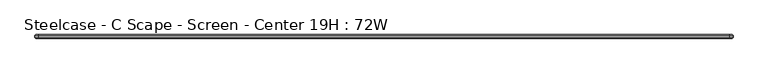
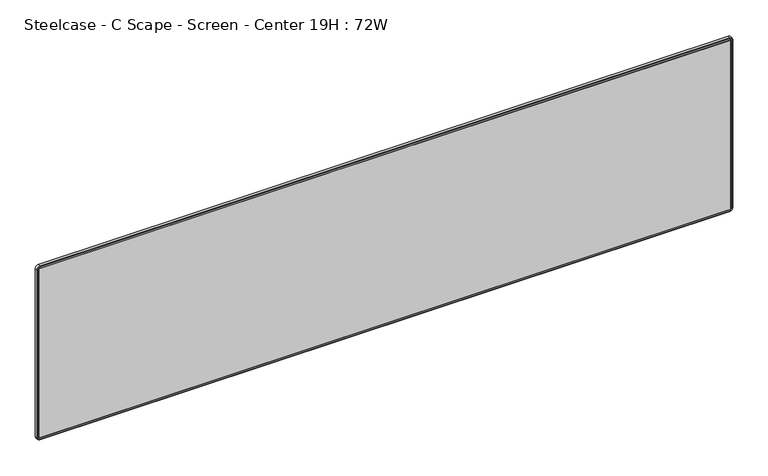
"""IFC4 building model written with IfcOpenShell, lengths in millimetres: furniture geometry, Steelcase - C Scape - Screen - Center 19H : 72W."""

from ifc_helpers import new_model, si_unit, frame, origin, place, context, project, spatial, polyline, circle_curve, outline, extrude, source, transform, mapped, element, save
from ifc_brep_helpers import plane_surface, cylinder_surface, revolved_surface, advanced_brep


def steelcase_c_scape_screen_center_19h_72w_294c186f(model_context):
    return source(origin(), model_context, "Body", "SolidModel", [
        advanced_brep(
        [(6.3501994, -7.9375, 1153.0695677), (8.21859, -7.9375, 1154.9379583), (8.21859, -17.4625, 1154.9379583), (6.3501994, -17.4625, 1153.0695677), (0.0002237, -9.6896209, 1153.0695677), (8.21859, -9.6896209, 1161.2879341), (8.21859, -7.9375, 1159.5358132), (1.7523445, -7.9375, 1153.0695677), (0.0002237, -15.7098203, 1153.0695677), (8.21859, -15.7098203, 1161.2879341), (1.7529034, -17.4625, 1153.0695677), (8.21859, -17.4625, 1159.5352544), (6.3501994, -17.4625, 686.9063005), (6.3501994, -7.9375, 686.9063005), (1.7523445, -7.9375, 686.9063005), (0.0002237, -9.6896209, 686.9063005), (0.0002237, -15.7098203, 686.9063005), (1.7529034, -17.4625, 686.9063005), (8.21859, -7.9375, 685.0379099), (8.21859, -17.4625, 685.0379099), (8.21859, -9.6896209, 678.6879341), (8.21859, -7.9375, 680.440055), (8.21859, -15.7098203, 678.6879341), (8.21859, -17.4625, 680.4406139), (1817.406615, -17.4625, 685.0379099), (1817.406615, -7.9375, 685.0379099), (1817.406615, -7.9375, 680.440055), (1817.406615, -9.6896209, 678.6879341), (1817.406615, -15.7098203, 678.6879341), (1817.406615, -17.4625, 680.4406139), (1819.2750056, -7.9375, 686.9063005), (1819.2750056, -17.4625, 686.9063005), (1825.6249814, -9.6896209, 686.9063005), (1823.8728605, -7.9375, 686.9063005), (1825.6249814, -15.7098203, 686.9063005), (1823.8723017, -17.4625, 686.9063005), (1819.2750056, -17.4625, 1153.0695677), (1819.2750056, -7.9375, 1153.0695677), (1823.8728605, -7.9375, 1153.0695677), (1825.6249814, -9.6896209, 1153.0695677), (1825.6249814, -15.7098203, 1153.0695677), (1823.8723017, -17.4625, 1153.0695677), (1817.406615, -7.9375, 1154.9379583), (1817.406615, -17.4625, 1154.9379583), (1817.406615, -7.9375, 1159.5358132), (1817.406615, -9.6896209, 1161.2879341), (1817.406615, -15.7098203, 1161.2879341), (1817.406615, -17.4625, 1159.5352544)],
        [
            (0, 1, circle_curve(frame((8.21859, -7.9375, 1153.0695677), z_axis=(0.0, 1.0, 0.0), x_axis=(0.0, 0.0, 1.0)), 1.8683906)),
            (1, 2),
            (2, 3, circle_curve(frame((8.21859, -17.4625, 1153.0695677), z_axis=(0.0, -1.0, 0.0), x_axis=(0.0, 0.0, 1.0)), 1.8683906)),
            (3, 0),
            (4, 5, circle_curve(frame((8.21859, -9.6896209, 1153.0695677), z_axis=(0.0, 1.0, 0.0), x_axis=(0.0, 0.0, 1.0)), 8.2183664)),
            (5, 6),
            (6, 7, circle_curve(frame((8.21859, -7.9375, 1153.0695677), z_axis=(0.0, -1.0, 0.0), x_axis=(0.0, 0.0, 1.0)), 6.4662455)),
            (7, 4),
            (8, 9, circle_curve(frame((8.21859, -15.7098203, 1153.0695677), z_axis=(0.0, 1.0, 0.0), x_axis=(0.0, 0.0, 1.0)), 8.2183664)),
            (9, 5),
            (4, 8),
            (10, 11, circle_curve(frame((8.21859, -17.4625, 1153.0695677), z_axis=(0.0, 1.0, 0.0), x_axis=(0.0, 0.0, 1.0)), 6.4656866)),
            (11, 9),
            (8, 10),
            (3, 12),
            (12, 13),
            (13, 0),
            (7, 14),
            (14, 15),
            (15, 4),
            (15, 16),
            (16, 8),
            (16, 17),
            (17, 10),
            (18, 13, circle_curve(frame((8.21859, -7.9375, 686.9063005), z_axis=(0.0, 1.0, 0.0), x_axis=(-1.0, 0.0, 0.0)), 1.8683906)),
            (12, 19, circle_curve(frame((8.21859, -17.4625, 686.9063005), z_axis=(0.0, -1.0, 0.0), x_axis=(-1.0, 0.0, 0.0)), 1.8683906)),
            (19, 18),
            (20, 15, circle_curve(frame((8.21859, -9.6896209, 686.9063005), z_axis=(0.0, 1.0, 0.0), x_axis=(-1.0, 0.0, 0.0)), 8.2183664)),
            (14, 21, circle_curve(frame((8.21859, -7.9375, 686.9063005), z_axis=(0.0, -1.0, 0.0), x_axis=(-1.0, 0.0, 0.0)), 6.4662455)),
            (21, 20),
            (22, 16, circle_curve(frame((8.21859, -15.7098203, 686.9063005), z_axis=(0.0, 1.0, 0.0), x_axis=(-1.0, 0.0, 0.0)), 8.2183664)),
            (20, 22),
            (23, 17, circle_curve(frame((8.21859, -17.4625, 686.9063005), z_axis=(0.0, 1.0, 0.0), x_axis=(-1.0, 0.0, 0.0)), 6.4656866)),
            (22, 23),
            (19, 24),
            (24, 25),
            (25, 18),
            (21, 26),
            (26, 27),
            (27, 20),
            (27, 28),
            (28, 22),
            (28, 29),
            (29, 23),
            (30, 25, circle_curve(frame((1817.406615, -7.9375, 686.9063005), z_axis=(0.0, 1.0, 0.0), x_axis=(0.0, 0.0, -1.0)), 1.8683906)),
            (24, 31, circle_curve(frame((1817.406615, -17.4625, 686.9063005), z_axis=(0.0, -1.0, 0.0), x_axis=(0.0, 0.0, -1.0)), 1.8683906)),
            (31, 30),
            (32, 27, circle_curve(frame((1817.406615, -9.6896209, 686.9063005), z_axis=(0.0, 1.0, 0.0), x_axis=(0.0, 0.0, -1.0)), 8.2183664)),
            (26, 33, circle_curve(frame((1817.406615, -7.9375, 686.9063005), z_axis=(0.0, -1.0, 0.0), x_axis=(0.0, 0.0, -1.0)), 6.4662455)),
            (33, 32),
            (34, 28, circle_curve(frame((1817.406615, -15.7098203, 686.9063005), z_axis=(0.0, 1.0, 0.0), x_axis=(0.0, 0.0, -1.0)), 8.2183664)),
            (32, 34),
            (35, 29, circle_curve(frame((1817.406615, -17.4625, 686.9063005), z_axis=(0.0, 1.0, 0.0), x_axis=(0.0, 0.0, -1.0)), 6.4656866)),
            (34, 35),
            (31, 36),
            (36, 37),
            (37, 30),
            (33, 38),
            (38, 39),
            (39, 32),
            (39, 40),
            (40, 34),
            (40, 41),
            (41, 35),
            (42, 37, circle_curve(frame((1817.406615, -7.9375, 1153.0695677), z_axis=(0.0, 1.0, 0.0), x_axis=(1.0, 0.0, 0.0)), 1.8683906)),
            (36, 43, circle_curve(frame((1817.406615, -17.4625, 1153.0695677), z_axis=(0.0, -1.0, 0.0), x_axis=(1.0, 0.0, 0.0)), 1.8683906)),
            (43, 42),
            (44, 38, circle_curve(frame((1817.406615, -7.9375, 1153.0695677), z_axis=(0.0, 1.0, 0.0), x_axis=(1.0, 0.0, 0.0)), 6.4662455)),
            (6, 44),
            (42, 1),
            (45, 39, circle_curve(frame((1817.406615, -9.6896209, 1153.0695677), z_axis=(0.0, 1.0, 0.0), x_axis=(1.0, 0.0, 0.0)), 8.2183664)),
            (44, 45),
            (46, 40, circle_curve(frame((1817.406615, -15.7098203, 1153.0695677), z_axis=(0.0, 1.0, 0.0), x_axis=(1.0, 0.0, 0.0)), 8.2183664)),
            (45, 46),
            (47, 41, circle_curve(frame((1817.406615, -17.4625, 1153.0695677), z_axis=(0.0, 1.0, 0.0), x_axis=(1.0, 0.0, 0.0)), 6.4656866)),
            (46, 47),
            (47, 11),
            (2, 43),
            (5, 45),
            (9, 46),
        ],
        [
            revolved_surface(polyline([(8.21859, -17.4625, 1154.9379583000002), (8.21859, -7.9375, 1154.9379583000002)]), (8.21859, -7.9375, 1153.0695677), (0.0, -1.0, 0.0)),
            revolved_surface(polyline([(8.21859, -7.9375, 1159.5358132), (8.21859, -9.6896209, 1161.2879341)]), (8.21859, -7.9375, 1153.0695677), (0.0, -1.0, 0.0)),
            cylinder_surface(frame((8.21859, -7.9375, 1153.0695677), z_axis=(0.0, -1.0, 0.0), x_axis=(0.0, 0.0, 1.0)), 8.2183664),
            revolved_surface(polyline([(8.21859, -15.7098203, 1161.2879341), (8.21859, -17.4625, 1159.5352544)]), (8.21859, -7.9375, 1153.0695677), (0.0, -1.0, 0.0)),
            plane_surface(frame((6.3501994, -17.4625, 1153.0695677), z_axis=(1.0, 0.0, 0.0), x_axis=(0.0, 0.0, -1.0))),
            plane_surface(frame((1.7523445, -7.9375, 1153.0695677), z_axis=(-0.7071067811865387, 0.7071067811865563, 0.0), x_axis=(0.0, 0.0, -1.0))),
            plane_surface(frame((0.0002237, -9.6896209, 1153.0695677), z_axis=(-1.0, 0.0, 0.0), x_axis=(0.0, 0.0, -1.0))),
            plane_surface(frame((0.0002237, -15.7098203, 1153.0695677), z_axis=(-0.7071067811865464, -0.7071067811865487, 0.0), x_axis=(0.0, 0.0, -1.0))),
            revolved_surface(polyline([(6.350199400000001, -17.4625, 686.9063005), (6.350199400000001, -7.9375, 686.9063005)]), (8.21859, -7.9375, 686.9063005), (0.0, -1.0, 0.0)),
            revolved_surface(polyline([(1.7523445, -7.9375, 686.9063005), (0.0002237, -9.6896209, 686.9063005)]), (8.21859, -7.9375, 686.9063005), (0.0, -1.0, 0.0)),
            cylinder_surface(frame((8.21859, -7.9375, 686.9063005), z_axis=(0.0, -1.0, 0.0), x_axis=(-1.0, 0.0, 0.0)), 8.2183664),
            revolved_surface(polyline([(0.0002237, -15.7098203, 686.9063005), (1.7529034, -17.4625, 686.9063005)]), (8.21859, -7.9375, 686.9063005), (0.0, -1.0, 0.0)),
            plane_surface(frame((8.21859, -17.4625, 685.0379099), z_axis=(0.0, 0.0, 1.0), x_axis=(1.0, 0.0, 0.0))),
            plane_surface(frame((8.21859, -7.9375, 680.440055), z_axis=(0.0, 0.7071067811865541, -0.7071067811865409), x_axis=(1.0, 0.0, 0.0))),
            plane_surface(frame((8.21859, -9.6896209, 678.6879341), z_axis=(0.0, 0.0, -1.0), x_axis=(1.0, 0.0, 0.0))),
            plane_surface(frame((8.21859, -15.7098203, 678.6879341), z_axis=(0.0, -0.7071067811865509, -0.7071067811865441), x_axis=(1.0, 0.0, 0.0))),
            revolved_surface(polyline([(1817.406615, -17.4625, 685.0379099), (1817.406615, -7.9375, 685.0379099)]), (1817.406615, -7.9375, 686.9063005), (0.0, -1.0, 0.0)),
            revolved_surface(polyline([(1817.406615, -7.9375, 680.440055), (1817.406615, -9.6896209, 678.6879341)]), (1817.406615, -7.9375, 686.9063005), (0.0, -1.0, 0.0)),
            cylinder_surface(frame((1817.406615, -7.9375, 686.9063005), z_axis=(0.0, -1.0, 0.0), x_axis=(0.0, 0.0, -1.0)), 8.2183664),
            revolved_surface(polyline([(1817.406615, -15.7098203, 678.6879341), (1817.406615, -17.4625, 680.4406139)]), (1817.406615, -7.9375, 686.9063005), (0.0, -1.0, 0.0)),
            plane_surface(frame((1819.2750056, -17.4625, 686.9063005), z_axis=(-1.0, 0.0, 0.0), x_axis=(0.0, 0.0, 1.0))),
            plane_surface(frame((1823.8728605, -7.9375, 686.9063005), z_axis=(0.7071067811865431, 0.7071067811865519, 0.0), x_axis=(0.0, 0.0, 1.0))),
            plane_surface(frame((1825.6249814, -9.6896209, 686.9063005), z_axis=(1.0, 0.0, 0.0), x_axis=(0.0, 0.0, 1.0))),
            plane_surface(frame((1825.6249814, -15.7098203, 686.9063005), z_axis=(0.7071067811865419, -0.7071067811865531, 0.0), x_axis=(0.0, 0.0, 1.0))),
            revolved_surface(polyline([(1819.2750056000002, -17.4625, 1153.0695677), (1819.2750056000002, -7.9375, 1153.0695677)]), (1817.406615, -7.9375, 1153.0695677), (0.0, -1.0, 0.0)),
            plane_surface(frame((1817.406615, -7.9375, 1153.0695677), z_axis=(0.0, 1.0, 0.0), x_axis=(1.0, 0.0, 0.0))),
            revolved_surface(polyline([(1823.8728605, -7.9375, 1153.0695677), (1825.6249814, -9.6896209, 1153.0695677)]), (1817.406615, -7.9375, 1153.0695677), (0.0, -1.0, 0.0)),
            cylinder_surface(frame((1817.406615, -7.9375, 1153.0695677), z_axis=(0.0, -1.0, 0.0), x_axis=(1.0, 0.0, 0.0)), 8.2183664),
            revolved_surface(polyline([(1825.6249814, -15.7098203, 1153.0695677), (1823.8723017, -17.4625, 1153.0695677)]), (1817.406615, -7.9375, 1153.0695677), (0.0, -1.0, 0.0)),
            plane_surface(frame((1817.406615, -17.4625, 1153.0695677), z_axis=(0.0, -1.0, 0.0), x_axis=(1.0, 0.0, 0.0))),
            plane_surface(frame((1817.406615, -17.4625, 1154.9379583), z_axis=(0.0, 0.0, -1.0), x_axis=(-1.0, 0.0, 0.0))),
            plane_surface(frame((1817.406615, -7.9375, 1159.5358132), z_axis=(0.0, 0.7071067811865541, 0.7071067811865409), x_axis=(-1.0, 0.0, 0.0))),
            plane_surface(frame((1817.406615, -9.6896209, 1161.2879341), z_axis=(0.0, 0.0, 1.0), x_axis=(-1.0, 0.0, 0.0))),
            plane_surface(frame((1817.406615, -15.7098203, 1161.2879341), z_axis=(0.0, -0.7071067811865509, 0.7071067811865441), x_axis=(-1.0, 0.0, 0.0))),
        ],
        [
            (0, [[1, 2, 3, 4]]),
            (1, [[5, 6, 7, 8]]),
            (2, [[9, 10, -5, 11]]),
            (3, [[12, 13, -9, 14]]),
            (4, [[-4, 15, 16, 17]]),
            (5, [[-8, 18, 19, 20]]),
            (6, [[-11, -20, 21, 22]]),
            (7, [[-14, -22, 23, 24]]),
            (8, [[25, -16, 26, 27]]),
            (9, [[28, -19, 29, 30]]),
            (10, [[31, -21, -28, 32]]),
            (11, [[33, -23, -31, 34]]),
            (12, [[-27, 35, 36, 37]]),
            (13, [[-30, 38, 39, 40]]),
            (14, [[-32, -40, 41, 42]]),
            (15, [[-34, -42, 43, 44]]),
            (16, [[45, -36, 46, 47]]),
            (17, [[48, -39, 49, 50]]),
            (18, [[51, -41, -48, 52]]),
            (19, [[53, -43, -51, 54]]),
            (20, [[-47, 55, 56, 57]]),
            (21, [[-50, 58, 59, 60]]),
            (22, [[-52, -60, 61, 62]]),
            (23, [[-54, -62, 63, 64]]),
            (24, [[65, -56, 66, 67]]),
            (25, [[68, -58, -49, -38, -29, -18, -7, 69], [-37, -45, -57, -65, 70, -1, -17, -25]]),
            (26, [[71, -59, -68, 72]]),
            (27, [[73, -61, -71, 74]]),
            (28, [[75, -63, -73, 76]]),
            (29, [[-44, -53, -64, -75, 77, -12, -24, -33], [-66, -55, -46, -35, -26, -15, -3, 78]]),
            (30, [[-67, -78, -2, -70]]),
            (31, [[-72, -69, -6, 79]]),
            (32, [[-74, -79, -10, 80]]),
            (33, [[-76, -80, -13, -77]]),
        ],
    ),
        extrude(outline(polyline([(1819.2750056, -7.9375), (1819.2750056, -17.4625), (6.3501994, -17.4625), (6.3501994, -7.9375), (1819.2750056, -7.9375)])), frame((0.0, 0.0, 685.0379099), z_axis=(0.0, 0.0, 1.0), x_axis=(1.0, 0.0, 0.0)), (0.0, 0.0, 1.0), 469.9000484),
    ])


if __name__ == "__main__":
    model = new_model("IFC4")
    model_context = context("Model", 3, world=origin())
    ifc_project = project(units=[si_unit("LENGTHUNIT", "METRE", prefix="MILLI")], contexts=[model_context])
    site = spatial("IfcSite", under=ifc_project)
    building = spatial("IfcBuilding", under=site)
    placement = place(None, origin())
    steelcase_c_scape_screen_center_19h_72w_shape = steelcase_c_scape_screen_center_19h_72w_294c186f(model_context)
    element("IfcFurniture", 1, ObjectType="Steelcase - C Scape - Screen - Center 19H : 72W", at=placement, inside=building, context=model_context, shape_type="MappedRepresentation", body=[
        mapped(steelcase_c_scape_screen_center_19h_72w_shape, transform((0.0, 0.0, 0.0), x_axis=(1.0, 0.0, 0.0), y_axis=(0.0, 1.0, 0.0), z_axis=(0.0, 0.0, 1.0))),
    ])
    save(model, "model.ifc")
